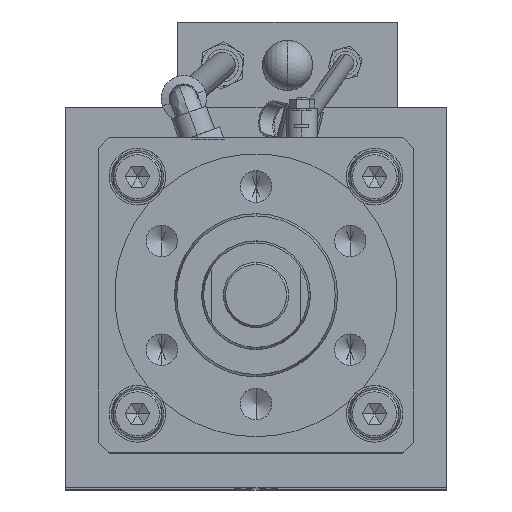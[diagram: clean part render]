
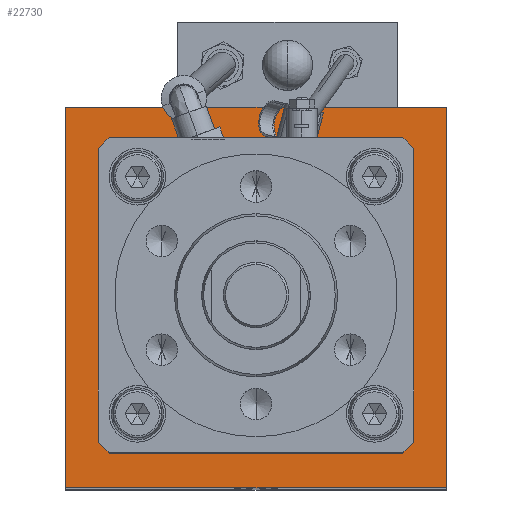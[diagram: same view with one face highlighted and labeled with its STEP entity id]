
A CAD part, top view. The second image highlights one B-rep face of the part: STEP entity #22730.
In plain terms, the highlighted planar face has unit normal (0, 0, 1).
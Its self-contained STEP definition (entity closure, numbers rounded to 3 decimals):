
#672 = CARTESIAN_POINT ( 'NONE',  ( 236.026, 971.823, 120.332 ) ) ;
#1391 = CARTESIAN_POINT ( 'NONE',  ( 61.026, 1146.823, 120.332 ) ) ;
#1942 = DIRECTION ( 'NONE',  ( 0., 0., -1. ) ) ;
#2238 = EDGE_CURVE ( 'NONE', #8271, #27085, #15987, .T. ) ;
#4188 = LINE ( 'NONE', #22750, #15063 ) ;
#5139 = CARTESIAN_POINT ( 'NONE',  ( 236.026, 1146.823, 120.332 ) ) ;
#5226 = DIRECTION ( 'NONE',  ( -1., 0., 0. ) ) ;
#6959 = EDGE_CURVE ( 'NONE', #27085, #21867, #4188, .T. ) ;
#8271 = VERTEX_POINT ( 'NONE', #1391 ) ;
#9127 = CARTESIAN_POINT ( 'NONE',  ( 181.026, 564.54, 120.332 ) ) ;
#9430 = DIRECTION ( 'NONE',  ( 0., 1., 0. ) ) ;
#10173 = VECTOR ( 'NONE', #23734, 1000. ) ;
#11188 = CARTESIAN_POINT ( 'NONE',  ( 236.026, 1146.823, 120.332 ) ) ;
#11485 = DIRECTION ( 'NONE',  ( -1., 0., 0. ) ) ;
#11742 = AXIS2_PLACEMENT_3D ( 'NONE', #9127, #1942, #11485 ) ;
#12012 = ORIENTED_EDGE ( 'NONE', *, *, #6959, .F. ) ;
#12783 = ORIENTED_EDGE ( 'NONE', *, *, #2238, .F. ) ;
#13561 = EDGE_LOOP ( 'NONE', ( #12012, #12783, #22590, #20262 ) ) ;
#15063 = VECTOR ( 'NONE', #29901, 1000. ) ;
#15987 = LINE ( 'NONE', #5139, #10173 ) ;
#16019 = VERTEX_POINT ( 'NONE', #21277 ) ;
#16204 = EDGE_CURVE ( 'NONE', #21867, #16019, #16967, .T. ) ;
#16545 = VECTOR ( 'NONE', #5226, 1000. ) ;
#16967 = LINE ( 'NONE', #672, #16545 ) ;
#20262 = ORIENTED_EDGE ( 'NONE', *, *, #16204, .F. ) ;
#21277 = CARTESIAN_POINT ( 'NONE',  ( 61.026, 971.823, 120.332 ) ) ;
#21293 = CARTESIAN_POINT ( 'NONE',  ( 61.026, 1146.823, 120.332 ) ) ;
#21867 = VERTEX_POINT ( 'NONE', #23666 ) ;
#22590 = ORIENTED_EDGE ( 'NONE', *, *, #28466, .F. ) ;
#22730 = ADVANCED_FACE ( 'NONE', ( #27986 ), #23580, .F. ) ;
#22750 = CARTESIAN_POINT ( 'NONE',  ( 236.026, 1146.823, 120.332 ) ) ;
#23300 = LINE ( 'NONE', #21293, #29003 ) ;
#23580 = PLANE ( 'NONE',  #11742 ) ;
#23666 = CARTESIAN_POINT ( 'NONE',  ( 236.026, 971.823, 120.332 ) ) ;
#23734 = DIRECTION ( 'NONE',  ( 1., 0., 0. ) ) ;
#27085 = VERTEX_POINT ( 'NONE', #11188 ) ;
#27986 = FACE_OUTER_BOUND ( 'NONE', #13561, .T. ) ;
#28466 = EDGE_CURVE ( 'NONE', #16019, #8271, #23300, .T. ) ;
#29003 = VECTOR ( 'NONE', #9430, 1000. ) ;
#29901 = DIRECTION ( 'NONE',  ( 0., -1., 0. ) ) ;
